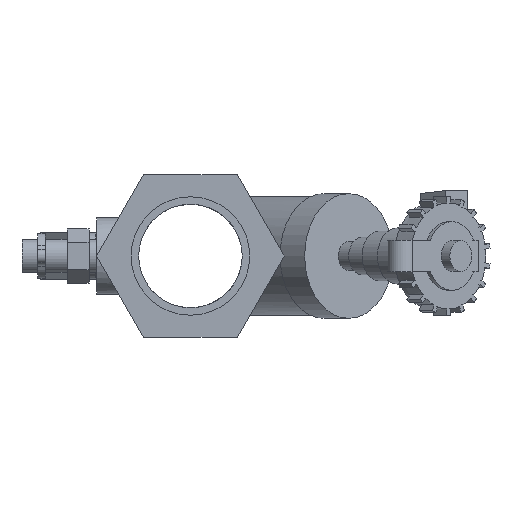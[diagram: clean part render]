
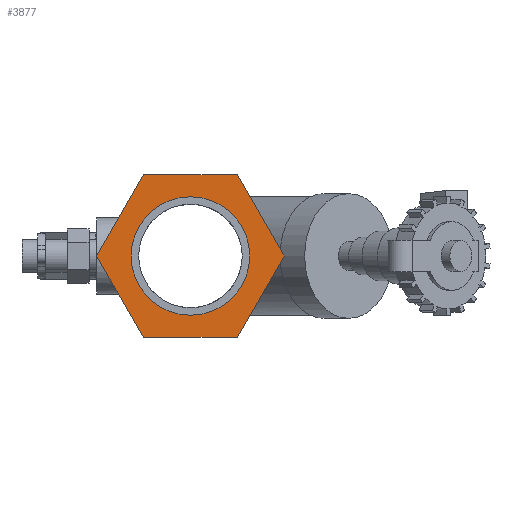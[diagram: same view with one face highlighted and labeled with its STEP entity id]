
A CAD part, left-side view. The second image highlights one B-rep face of the part: STEP entity #3877.
In plain terms, the highlighted planar face has unit normal (-1, 0, 0).
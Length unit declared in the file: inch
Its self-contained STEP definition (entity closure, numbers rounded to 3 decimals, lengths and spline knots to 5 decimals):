
#58=FACE_BOUND('',#433,.T.);
#210=FACE_OUTER_BOUND('',#432,.T.);
#432=EDGE_LOOP('',(#2638,#2639,#2640,#2641,#2642,#2643));
#433=EDGE_LOOP('',(#2644));
#670=LINE('',#6380,#1015);
#671=LINE('',#6382,#1016);
#672=LINE('',#6384,#1017);
#673=LINE('',#6386,#1018);
#674=LINE('',#6388,#1019);
#675=LINE('',#6389,#1020);
#1015=VECTOR('',#4677,0.3937);
#1016=VECTOR('',#4678,0.3937);
#1017=VECTOR('',#4679,0.3937);
#1018=VECTOR('',#4680,0.3937);
#1019=VECTOR('',#4681,0.3937);
#1020=VECTOR('',#4682,0.3937);
#1355=CIRCLE('',#4152,0.95);
#1584=VERTEX_POINT('',#6378);
#1585=VERTEX_POINT('',#6379);
#1586=VERTEX_POINT('',#6381);
#1587=VERTEX_POINT('',#6383);
#1588=VERTEX_POINT('',#6385);
#1589=VERTEX_POINT('',#6387);
#1590=VERTEX_POINT('',#6390);
#1994=EDGE_CURVE('',#1584,#1585,#670,.T.);
#1995=EDGE_CURVE('',#1585,#1586,#671,.T.);
#1996=EDGE_CURVE('',#1586,#1587,#672,.T.);
#1997=EDGE_CURVE('',#1587,#1588,#673,.T.);
#1998=EDGE_CURVE('',#1588,#1589,#674,.T.);
#1999=EDGE_CURVE('',#1589,#1584,#675,.T.);
#2000=EDGE_CURVE('',#1590,#1590,#1355,.T.);
#2638=ORIENTED_EDGE('',*,*,#1994,.T.);
#2639=ORIENTED_EDGE('',*,*,#1995,.T.);
#2640=ORIENTED_EDGE('',*,*,#1996,.T.);
#2641=ORIENTED_EDGE('',*,*,#1997,.T.);
#2642=ORIENTED_EDGE('',*,*,#1998,.T.);
#2643=ORIENTED_EDGE('',*,*,#1999,.T.);
#2644=ORIENTED_EDGE('',*,*,#2000,.F.);
#3614=PLANE('',#4151);
#3877=ADVANCED_FACE('',(#210,#58),#3614,.T.);
#4151=AXIS2_PLACEMENT_3D('',#6377,#4675,#4676);
#4152=AXIS2_PLACEMENT_3D('',#6391,#4683,#4684);
#4675=DIRECTION('center_axis',(-1.,0.,0.));
#4676=DIRECTION('ref_axis',(0.,0.,1.));
#4677=DIRECTION('',(0.,1.,0.));
#4678=DIRECTION('',(0.,0.5,-0.866));
#4679=DIRECTION('',(0.,-0.5,-0.866));
#4680=DIRECTION('',(0.,-1.,0.));
#4681=DIRECTION('',(0.,-0.5,0.866));
#4682=DIRECTION('',(0.,0.5,0.866));
#4683=DIRECTION('center_axis',(-1.,0.,0.));
#4684=DIRECTION('ref_axis',(0.,1.,0.));
#6377=CARTESIAN_POINT('Origin',(-3.78,0.,0.));
#6378=CARTESIAN_POINT('',(-3.78,-0.75056,1.3));
#6379=CARTESIAN_POINT('',(-3.78,0.75056,1.3));
#6380=CARTESIAN_POINT('',(-3.78,0.75056,1.3));
#6381=CARTESIAN_POINT('',(-3.78,1.50111,0.));
#6382=CARTESIAN_POINT('',(-3.78,1.50111,0.));
#6383=CARTESIAN_POINT('',(-3.78,0.75056,-1.3));
#6384=CARTESIAN_POINT('',(-3.78,0.75056,-1.3));
#6385=CARTESIAN_POINT('',(-3.78,-0.75056,-1.3));
#6386=CARTESIAN_POINT('',(-3.78,-0.75056,-1.3));
#6387=CARTESIAN_POINT('',(-3.78,-1.50111,0.));
#6388=CARTESIAN_POINT('',(-3.78,-1.50111,0.));
#6389=CARTESIAN_POINT('',(-3.78,-0.75056,1.3));
#6390=CARTESIAN_POINT('',(-3.78,-0.95,0.));
#6391=CARTESIAN_POINT('Origin',(-3.78,0.,0.));
